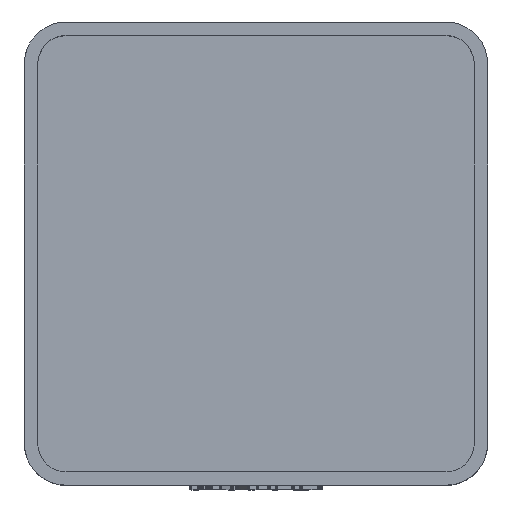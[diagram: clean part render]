
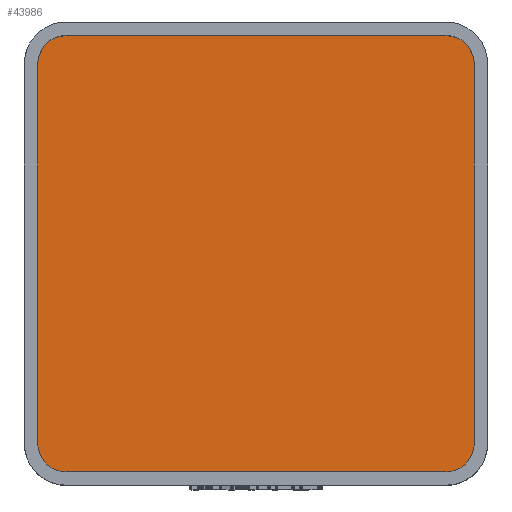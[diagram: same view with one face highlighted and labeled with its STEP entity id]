
A CAD part, top view. The second image highlights one B-rep face of the part: STEP entity #43986.
In plain terms, the highlighted planar face has unit normal (0, 0, 1).
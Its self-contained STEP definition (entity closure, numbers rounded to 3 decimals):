
#1442 = PLANE('',#1443);
#1443 = AXIS2_PLACEMENT_3D('',#1444,#1445,#1446);
#1444 = CARTESIAN_POINT('',(-19.55,-17.,4.75));
#1445 = DIRECTION('',(-1.,0.,0.));
#1446 = DIRECTION('',(0.,1.,0.));
#1474 = CYLINDRICAL_SURFACE('',#1475,2.55);
#1475 = AXIS2_PLACEMENT_3D('',#1476,#1477,#1478);
#1476 = CARTESIAN_POINT('',(-17.,17.,4.75));
#1477 = DIRECTION('',(-0.,-0.,-1.));
#1478 = DIRECTION('',(1.,0.,0.));
#1501 = PLANE('',#1502);
#1502 = AXIS2_PLACEMENT_3D('',#1503,#1504,#1505);
#1503 = CARTESIAN_POINT('',(-17.,19.55,4.75));
#1504 = DIRECTION('',(0.,1.,0.));
#1505 = DIRECTION('',(1.,0.,0.));
#1533 = CYLINDRICAL_SURFACE('',#1534,2.55);
#1534 = AXIS2_PLACEMENT_3D('',#1535,#1536,#1537);
#1535 = CARTESIAN_POINT('',(17.,17.,4.75));
#1536 = DIRECTION('',(-0.,-0.,-1.));
#1537 = DIRECTION('',(1.,0.,0.));
#1560 = PLANE('',#1561);
#1561 = AXIS2_PLACEMENT_3D('',#1562,#1563,#1564);
#1562 = CARTESIAN_POINT('',(19.55,-17.,4.75));
#1563 = DIRECTION('',(-1.,0.,0.));
#1564 = DIRECTION('',(0.,1.,0.));
#1592 = CYLINDRICAL_SURFACE('',#1593,2.55);
#1593 = AXIS2_PLACEMENT_3D('',#1594,#1595,#1596);
#1594 = CARTESIAN_POINT('',(17.,-17.,4.75));
#1595 = DIRECTION('',(-0.,-0.,-1.));
#1596 = DIRECTION('',(1.,0.,0.));
#1619 = PLANE('',#1620);
#1620 = AXIS2_PLACEMENT_3D('',#1621,#1622,#1623);
#1621 = CARTESIAN_POINT('',(-17.,-19.55,4.75));
#1622 = DIRECTION('',(0.,1.,0.));
#1623 = DIRECTION('',(1.,0.,0.));
#1649 = CYLINDRICAL_SURFACE('',#1650,2.55);
#1650 = AXIS2_PLACEMENT_3D('',#1651,#1652,#1653);
#1651 = CARTESIAN_POINT('',(-17.,-17.,4.75));
#1652 = DIRECTION('',(-0.,-0.,-1.));
#1653 = DIRECTION('',(1.,0.,0.));
#16271 = EDGE_CURVE('',#16272,#16274,#16276,.T.);
#16272 = VERTEX_POINT('',#16273);
#16273 = CARTESIAN_POINT('',(-19.55,-17.,4.75));
#16274 = VERTEX_POINT('',#16275);
#16275 = CARTESIAN_POINT('',(-19.55,17.,4.75));
#16276 = SURFACE_CURVE('',#16277,(#16281,#16288),.PCURVE_S1.);
#16277 = LINE('',#16278,#16279);
#16278 = CARTESIAN_POINT('',(-19.55,0.,4.75));
#16279 = VECTOR('',#16280,1.);
#16280 = DIRECTION('',(0.,1.,0.));
#16281 = PCURVE('',#1442,#16282);
#16282 = DEFINITIONAL_REPRESENTATION('',(#16283),#16287);
#16283 = LINE('',#16284,#16285);
#16284 = CARTESIAN_POINT('',(17.,0.));
#16285 = VECTOR('',#16286,1.);
#16286 = DIRECTION('',(1.,0.));
#16287 = ( GEOMETRIC_REPRESENTATION_CONTEXT(2) 
PARAMETRIC_REPRESENTATION_CONTEXT() REPRESENTATION_CONTEXT('2D SPACE',''
  ) );
#16288 = PCURVE('',#16289,#16294);
#16289 = PLANE('',#16290);
#16290 = AXIS2_PLACEMENT_3D('',#16291,#16292,#16293);
#16291 = CARTESIAN_POINT('',(0.,0.,4.75
    ));
#16292 = DIRECTION('',(0.,0.,1.));
#16293 = DIRECTION('',(1.,0.,-0.));
#16294 = DEFINITIONAL_REPRESENTATION('',(#16295),#16299);
#16295 = LINE('',#16296,#16297);
#16296 = CARTESIAN_POINT('',(-19.55,0.));
#16297 = VECTOR('',#16298,1.);
#16298 = DIRECTION('',(0.,1.));
#16299 = ( GEOMETRIC_REPRESENTATION_CONTEXT(2) 
PARAMETRIC_REPRESENTATION_CONTEXT() REPRESENTATION_CONTEXT('2D SPACE',''
  ) );
#16347 = EDGE_CURVE('',#16272,#16348,#16350,.T.);
#16348 = VERTEX_POINT('',#16349);
#16349 = CARTESIAN_POINT('',(-17.,-19.55,4.75));
#16350 = SURFACE_CURVE('',#16351,(#16356,#16363),.PCURVE_S1.);
#16351 = CIRCLE('',#16352,2.55);
#16352 = AXIS2_PLACEMENT_3D('',#16353,#16354,#16355);
#16353 = CARTESIAN_POINT('',(-17.,-17.,4.75));
#16354 = DIRECTION('',(0.,0.,1.));
#16355 = DIRECTION('',(1.,0.,0.));
#16356 = PCURVE('',#1649,#16357);
#16357 = DEFINITIONAL_REPRESENTATION('',(#16358),#16362);
#16358 = LINE('',#16359,#16360);
#16359 = CARTESIAN_POINT('',(-0.,0.));
#16360 = VECTOR('',#16361,1.);
#16361 = DIRECTION('',(-1.,0.));
#16362 = ( GEOMETRIC_REPRESENTATION_CONTEXT(2) 
PARAMETRIC_REPRESENTATION_CONTEXT() REPRESENTATION_CONTEXT('2D SPACE',''
  ) );
#16363 = PCURVE('',#16289,#16364);
#16364 = DEFINITIONAL_REPRESENTATION('',(#16365),#16369);
#16365 = CIRCLE('',#16366,2.55);
#16366 = AXIS2_PLACEMENT_2D('',#16367,#16368);
#16367 = CARTESIAN_POINT('',(-17.,-17.));
#16368 = DIRECTION('',(1.,0.));
#16369 = ( GEOMETRIC_REPRESENTATION_CONTEXT(2) 
PARAMETRIC_REPRESENTATION_CONTEXT() REPRESENTATION_CONTEXT('2D SPACE',''
  ) );
#16397 = EDGE_CURVE('',#16348,#16398,#16400,.T.);
#16398 = VERTEX_POINT('',#16399);
#16399 = CARTESIAN_POINT('',(17.,-19.55,4.75));
#16400 = SURFACE_CURVE('',#16401,(#16405,#16412),.PCURVE_S1.);
#16401 = LINE('',#16402,#16403);
#16402 = CARTESIAN_POINT('',(0.,-19.55,4.75));
#16403 = VECTOR('',#16404,1.);
#16404 = DIRECTION('',(1.,0.,0.));
#16405 = PCURVE('',#1619,#16406);
#16406 = DEFINITIONAL_REPRESENTATION('',(#16407),#16411);
#16407 = LINE('',#16408,#16409);
#16408 = CARTESIAN_POINT('',(17.,0.));
#16409 = VECTOR('',#16410,1.);
#16410 = DIRECTION('',(1.,0.));
#16411 = ( GEOMETRIC_REPRESENTATION_CONTEXT(2) 
PARAMETRIC_REPRESENTATION_CONTEXT() REPRESENTATION_CONTEXT('2D SPACE',''
  ) );
#16412 = PCURVE('',#16289,#16413);
#16413 = DEFINITIONAL_REPRESENTATION('',(#16414),#16418);
#16414 = LINE('',#16415,#16416);
#16415 = CARTESIAN_POINT('',(0.,-19.55));
#16416 = VECTOR('',#16417,1.);
#16417 = DIRECTION('',(1.,0.));
#16418 = ( GEOMETRIC_REPRESENTATION_CONTEXT(2) 
PARAMETRIC_REPRESENTATION_CONTEXT() REPRESENTATION_CONTEXT('2D SPACE',''
  ) );
#16446 = EDGE_CURVE('',#16398,#16447,#16449,.T.);
#16447 = VERTEX_POINT('',#16448);
#16448 = CARTESIAN_POINT('',(19.55,-17.,4.75));
#16449 = SURFACE_CURVE('',#16450,(#16455,#16462),.PCURVE_S1.);
#16450 = CIRCLE('',#16451,2.55);
#16451 = AXIS2_PLACEMENT_3D('',#16452,#16453,#16454);
#16452 = CARTESIAN_POINT('',(17.,-17.,4.75));
#16453 = DIRECTION('',(0.,0.,1.));
#16454 = DIRECTION('',(1.,0.,0.));
#16455 = PCURVE('',#1592,#16456);
#16456 = DEFINITIONAL_REPRESENTATION('',(#16457),#16461);
#16457 = LINE('',#16458,#16459);
#16458 = CARTESIAN_POINT('',(-0.,0.));
#16459 = VECTOR('',#16460,1.);
#16460 = DIRECTION('',(-1.,0.));
#16461 = ( GEOMETRIC_REPRESENTATION_CONTEXT(2) 
PARAMETRIC_REPRESENTATION_CONTEXT() REPRESENTATION_CONTEXT('2D SPACE',''
  ) );
#16462 = PCURVE('',#16289,#16463);
#16463 = DEFINITIONAL_REPRESENTATION('',(#16464),#16468);
#16464 = CIRCLE('',#16465,2.55);
#16465 = AXIS2_PLACEMENT_2D('',#16466,#16467);
#16466 = CARTESIAN_POINT('',(17.,-17.));
#16467 = DIRECTION('',(1.,0.));
#16468 = ( GEOMETRIC_REPRESENTATION_CONTEXT(2) 
PARAMETRIC_REPRESENTATION_CONTEXT() REPRESENTATION_CONTEXT('2D SPACE',''
  ) );
#16496 = EDGE_CURVE('',#16447,#16497,#16499,.T.);
#16497 = VERTEX_POINT('',#16498);
#16498 = CARTESIAN_POINT('',(19.55,17.,4.75));
#16499 = SURFACE_CURVE('',#16500,(#16504,#16511),.PCURVE_S1.);
#16500 = LINE('',#16501,#16502);
#16501 = CARTESIAN_POINT('',(19.55,0.,4.75));
#16502 = VECTOR('',#16503,1.);
#16503 = DIRECTION('',(0.,1.,0.));
#16504 = PCURVE('',#1560,#16505);
#16505 = DEFINITIONAL_REPRESENTATION('',(#16506),#16510);
#16506 = LINE('',#16507,#16508);
#16507 = CARTESIAN_POINT('',(17.,0.));
#16508 = VECTOR('',#16509,1.);
#16509 = DIRECTION('',(1.,0.));
#16510 = ( GEOMETRIC_REPRESENTATION_CONTEXT(2) 
PARAMETRIC_REPRESENTATION_CONTEXT() REPRESENTATION_CONTEXT('2D SPACE',''
  ) );
#16511 = PCURVE('',#16289,#16512);
#16512 = DEFINITIONAL_REPRESENTATION('',(#16513),#16517);
#16513 = LINE('',#16514,#16515);
#16514 = CARTESIAN_POINT('',(19.55,0.));
#16515 = VECTOR('',#16516,1.);
#16516 = DIRECTION('',(0.,1.));
#16517 = ( GEOMETRIC_REPRESENTATION_CONTEXT(2) 
PARAMETRIC_REPRESENTATION_CONTEXT() REPRESENTATION_CONTEXT('2D SPACE',''
  ) );
#16545 = EDGE_CURVE('',#16497,#16546,#16548,.T.);
#16546 = VERTEX_POINT('',#16547);
#16547 = CARTESIAN_POINT('',(17.,19.55,4.75));
#16548 = SURFACE_CURVE('',#16549,(#16554,#16561),.PCURVE_S1.);
#16549 = CIRCLE('',#16550,2.55);
#16550 = AXIS2_PLACEMENT_3D('',#16551,#16552,#16553);
#16551 = CARTESIAN_POINT('',(17.,17.,4.75));
#16552 = DIRECTION('',(0.,0.,1.));
#16553 = DIRECTION('',(1.,0.,0.));
#16554 = PCURVE('',#1533,#16555);
#16555 = DEFINITIONAL_REPRESENTATION('',(#16556),#16560);
#16556 = LINE('',#16557,#16558);
#16557 = CARTESIAN_POINT('',(-0.,0.));
#16558 = VECTOR('',#16559,1.);
#16559 = DIRECTION('',(-1.,0.));
#16560 = ( GEOMETRIC_REPRESENTATION_CONTEXT(2) 
PARAMETRIC_REPRESENTATION_CONTEXT() REPRESENTATION_CONTEXT('2D SPACE',''
  ) );
#16561 = PCURVE('',#16289,#16562);
#16562 = DEFINITIONAL_REPRESENTATION('',(#16563),#16567);
#16563 = CIRCLE('',#16564,2.55);
#16564 = AXIS2_PLACEMENT_2D('',#16565,#16566);
#16565 = CARTESIAN_POINT('',(17.,17.));
#16566 = DIRECTION('',(1.,0.));
#16567 = ( GEOMETRIC_REPRESENTATION_CONTEXT(2) 
PARAMETRIC_REPRESENTATION_CONTEXT() REPRESENTATION_CONTEXT('2D SPACE',''
  ) );
#16595 = EDGE_CURVE('',#16596,#16546,#16598,.T.);
#16596 = VERTEX_POINT('',#16597);
#16597 = CARTESIAN_POINT('',(-17.,19.55,4.75));
#16598 = SURFACE_CURVE('',#16599,(#16603,#16610),.PCURVE_S1.);
#16599 = LINE('',#16600,#16601);
#16600 = CARTESIAN_POINT('',(0.,19.55,4.75));
#16601 = VECTOR('',#16602,1.);
#16602 = DIRECTION('',(1.,0.,0.));
#16603 = PCURVE('',#1501,#16604);
#16604 = DEFINITIONAL_REPRESENTATION('',(#16605),#16609);
#16605 = LINE('',#16606,#16607);
#16606 = CARTESIAN_POINT('',(17.,0.));
#16607 = VECTOR('',#16608,1.);
#16608 = DIRECTION('',(1.,0.));
#16609 = ( GEOMETRIC_REPRESENTATION_CONTEXT(2) 
PARAMETRIC_REPRESENTATION_CONTEXT() REPRESENTATION_CONTEXT('2D SPACE',''
  ) );
#16610 = PCURVE('',#16289,#16611);
#16611 = DEFINITIONAL_REPRESENTATION('',(#16612),#16616);
#16612 = LINE('',#16613,#16614);
#16613 = CARTESIAN_POINT('',(0.,19.55));
#16614 = VECTOR('',#16615,1.);
#16615 = DIRECTION('',(1.,0.));
#16616 = ( GEOMETRIC_REPRESENTATION_CONTEXT(2) 
PARAMETRIC_REPRESENTATION_CONTEXT() REPRESENTATION_CONTEXT('2D SPACE',''
  ) );
#16644 = EDGE_CURVE('',#16596,#16274,#16645,.T.);
#16645 = SURFACE_CURVE('',#16646,(#16651,#16658),.PCURVE_S1.);
#16646 = CIRCLE('',#16647,2.55);
#16647 = AXIS2_PLACEMENT_3D('',#16648,#16649,#16650);
#16648 = CARTESIAN_POINT('',(-17.,17.,4.75));
#16649 = DIRECTION('',(0.,0.,1.));
#16650 = DIRECTION('',(1.,0.,0.));
#16651 = PCURVE('',#1474,#16652);
#16652 = DEFINITIONAL_REPRESENTATION('',(#16653),#16657);
#16653 = LINE('',#16654,#16655);
#16654 = CARTESIAN_POINT('',(-0.,0.));
#16655 = VECTOR('',#16656,1.);
#16656 = DIRECTION('',(-1.,0.));
#16657 = ( GEOMETRIC_REPRESENTATION_CONTEXT(2) 
PARAMETRIC_REPRESENTATION_CONTEXT() REPRESENTATION_CONTEXT('2D SPACE',''
  ) );
#16658 = PCURVE('',#16289,#16659);
#16659 = DEFINITIONAL_REPRESENTATION('',(#16660),#16664);
#16660 = CIRCLE('',#16661,2.55);
#16661 = AXIS2_PLACEMENT_2D('',#16662,#16663);
#16662 = CARTESIAN_POINT('',(-17.,17.));
#16663 = DIRECTION('',(1.,0.));
#16664 = ( GEOMETRIC_REPRESENTATION_CONTEXT(2) 
PARAMETRIC_REPRESENTATION_CONTEXT() REPRESENTATION_CONTEXT('2D SPACE',''
  ) );
#43986 = ADVANCED_FACE('',(#43987),#16289,.T.);
#43987 = FACE_BOUND('',#43988,.T.);
#43988 = EDGE_LOOP('',(#43989,#43990,#43991,#43992,#43993,#43994,#43995,
    #43996));
#43989 = ORIENTED_EDGE('',*,*,#16271,.F.);
#43990 = ORIENTED_EDGE('',*,*,#16347,.T.);
#43991 = ORIENTED_EDGE('',*,*,#16397,.T.);
#43992 = ORIENTED_EDGE('',*,*,#16446,.T.);
#43993 = ORIENTED_EDGE('',*,*,#16496,.T.);
#43994 = ORIENTED_EDGE('',*,*,#16545,.T.);
#43995 = ORIENTED_EDGE('',*,*,#16595,.F.);
#43996 = ORIENTED_EDGE('',*,*,#16644,.T.);
